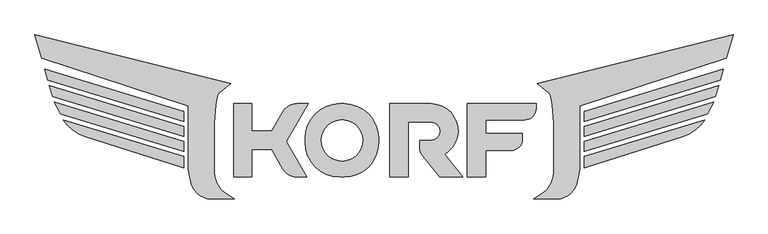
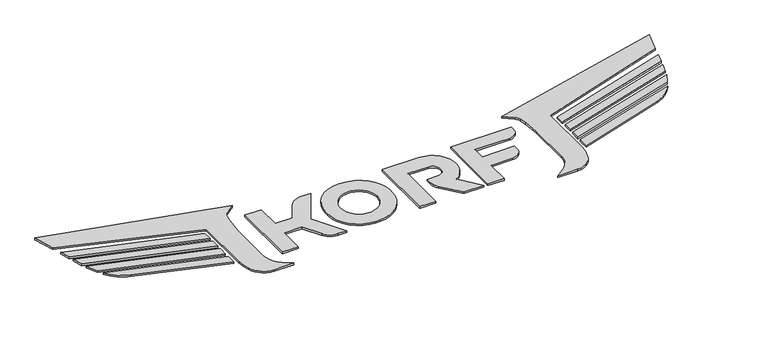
"""IFC4 building model written with IfcOpenShell, lengths in millimetres: proxy geometry, KORF_Логотип : KORF_Логотип."""

from ifc_helpers import new_model, si_unit, point, frame_2d, origin, origin_with_axes, place, context, project, spatial, polyline, circle_curve, trimmed, segment, composite_curve, outline, extrude, source, transform, mapped, element, save


def entourage_f634e647(model_context):
    return source(origin(), model_context, "Body", "SweptSolid", [
        extrude(outline(composite_curve([segment(polyline([(2403.9022071, 16467.9393043), (7407.5903226, 15220.3797396), (7144.561246, 15016.1112324)]), True, "CONTINUOUS"), segment(trimmed(circle_curve(frame_2d((7277.6691605, 14844.7130452)), 217.0139523), [point((7144.561246, 15016.1112324))], [point((7063.9521377, 14882.3971225))], True, "CARTESIAN"), True, "CONTINUOUS"), segment(polyline([(7063.9521377, 14882.3971225), (7028.6900077, 14682.4156454)]), True, "CONTINUOUS"), segment(trimmed(circle_curve(frame_2d((9701.7869253, 14211.0765368)), 2714.3337463), [point((7028.6900077, 14682.4156454))], [point((6987.453179, 14211.0765368))], True, "CARTESIAN"), True, "CONTINUOUS"), segment(polyline([(6987.453179, 14211.0765368), (6987.453179, 12947.0432768)]), True, "CONTINUOUS"), segment(trimmed(circle_curve(frame_2d((7616.5584413, 12947.0432768)), 629.1052623), [point((6987.453179, 12947.0432768))], [point((7244.2080678, 12439.9647519))], True, "CARTESIAN"), True, "CONTINUOUS"), segment(polyline([(7244.2080678, 12439.9647519), (7492.8383582, 12265.8719484), (6907.3621652, 12265.8719484)]), True, "CONTINUOUS"), segment(trimmed(circle_curve(frame_2d((6907.3621652, 12785.4983791)), 519.6264307), [point((6907.3621652, 12265.8719484))], [point((6403.1708602, 12659.789368))], False, "CARTESIAN"), True, "CONTINUOUS"), segment(trimmed(circle_curve(frame_2d((7775.9967689, 13144.9732922)), 1456.0406642), [point((6403.1708602, 12659.789368))], [point((6325.169916, 13021.8641584))], False, "CARTESIAN"), True, "CONTINUOUS"), segment(polyline([(6325.169916, 13021.8641584), (6325.169916, 14651.2673834), (2575.4676487, 15869.619505), (2403.9022071, 16467.9393043)]), True, "CONTINUOUS")], self_intersect=False)), origin_with_axes(), (0.0, 0.0, 1.0), 50.0),
        extrude(outline(polyline([(2734.7680258, 15314.0730693), (2653.8016117, 15596.4365111), (6207.138489, 14510.0724062), (6207.138489, 14252.4628812), (2734.7680258, 15314.0730693)])), origin_with_axes(), (0.0, 0.0, 1.0), 50.0),
        extrude(outline(polyline([(6207.138489, 13866.0485939), (2853.3071979, 14891.41772), (2772.3407838, 15173.7811619), (6207.138489, 14123.6581188), (6207.138489, 13866.0485939)])), origin_with_axes(), (0.0, 0.0, 1.0), 50.0),
        extrude(outline(composite_curve([segment(polyline([(6207.138489, 13479.6343065), (3057.8756095, 14442.4605928)]), True, "CONTINUOUS"), segment(trimmed(circle_curve(frame_2d((4578.1626957, 15406.2677286)), 1800.0547269), [point((3057.8756095, 14442.4605928))], [point((2903.0179527, 14747.4148546))], False, "CARTESIAN"), True, "CONTINUOUS"), segment(polyline([(2903.0179527, 14747.4148546), (6207.138489, 13737.2438314), (6207.138489, 13479.6343065)]), True, "CONTINUOUS")], self_intersect=False)), origin_with_axes(), (0.0, 0.0, 1.0), 50.0),
        extrude(outline(composite_curve([segment(polyline([(6207.138489, 13066.2319318), (3682.1800665, 13862.082173)]), True, "CONTINUOUS"), segment(trimmed(circle_curve(frame_2d((3980.6901623, 14809.1517869)), 993.0000659), [point((3682.1800665, 13862.082173))], [point((3133.9686917, 14290.3918404))], False, "CARTESIAN"), True, "CONTINUOUS"), segment(polyline([(3133.9686917, 14290.3918404), (6207.138489, 13350.829544), (6207.138489, 13066.2319318)]), True, "CONTINUOUS")], self_intersect=False)), origin_with_axes(), (0.0, 0.0, 1.0), 50.0),
        extrude(outline(composite_curve([segment(polyline([(20235.5114025, 16467.9393043), (20063.9459608, 15869.619505), (16314.2436936, 14651.2673834), (16314.2436936, 13021.8641584)]), True, "CONTINUOUS"), segment(trimmed(circle_curve(frame_2d((14863.4168407, 13144.9732922)), 1456.0406642), [point((16314.2436936, 13021.8641584))], [point((16236.2427493, 12659.789368))], False, "CARTESIAN"), True, "CONTINUOUS"), segment(trimmed(circle_curve(frame_2d((15732.0514443, 12785.4983791)), 519.6264307), [point((16236.2427493, 12659.789368))], [point((15732.0514443, 12265.8719484))], False, "CARTESIAN"), True, "CONTINUOUS"), segment(polyline([(15732.0514443, 12265.8719484), (15146.5752514, 12265.8719484), (15395.2055418, 12439.9647519)]), True, "CONTINUOUS"), segment(trimmed(circle_curve(frame_2d((15022.8551682, 12947.0432768)), 629.1052623), [point((15395.2055418, 12439.9647519))], [point((15651.9604305, 12947.0432768))], True, "CARTESIAN"), True, "CONTINUOUS"), segment(polyline([(15651.9604305, 12947.0432768), (15651.9604305, 14211.0765368)]), True, "CONTINUOUS"), segment(trimmed(circle_curve(frame_2d((12937.6266842, 14211.0765368)), 2714.3337463), [point((15651.9604305, 14211.0765368))], [point((15610.7236019, 14682.4156454))], True, "CARTESIAN"), True, "CONTINUOUS"), segment(polyline([(15610.7236019, 14682.4156454), (15575.4614718, 14882.3971225)]), True, "CONTINUOUS"), segment(trimmed(circle_curve(frame_2d((15361.744449, 14844.7130452)), 217.0139523), [point((15575.4614718, 14882.3971225))], [point((15494.8523636, 15016.1112324))], True, "CARTESIAN"), True, "CONTINUOUS"), segment(polyline([(15494.8523636, 15016.1112324), (15231.8232869, 15220.3797396), (20235.5114025, 16467.9393043)]), True, "CONTINUOUS")], self_intersect=False)), origin_with_axes(), (0.0, 0.0, 1.0), 50.0),
        extrude(outline(polyline([(19904.6455838, 15314.0730693), (16432.2751205, 14252.4628812), (16432.2751205, 14510.0724062), (19985.6119978, 15596.4365111), (19904.6455838, 15314.0730693)])), origin_with_axes(), (0.0, 0.0, 1.0), 50.0),
        extrude(outline(polyline([(16432.2751205, 13866.0485939), (16432.2751205, 14123.6581188), (19867.0728257, 15173.7811619), (19786.1064117, 14891.41772), (16432.2751205, 13866.0485939)])), origin_with_axes(), (0.0, 0.0, 1.0), 50.0),
        extrude(outline(composite_curve([segment(polyline([(16432.2751205, 13479.6343065), (16432.2751205, 13737.2438314), (19736.3956569, 14747.4148546)]), True, "CONTINUOUS"), segment(trimmed(circle_curve(frame_2d((18061.2509138, 15406.2677286)), 1800.0547269), [point((19736.3956569, 14747.4148546))], [point((19581.5380001, 14442.4605928))], False, "CARTESIAN"), True, "CONTINUOUS"), segment(polyline([(19581.5380001, 14442.4605928), (16432.2751205, 13479.6343065)]), True, "CONTINUOUS")], self_intersect=False)), origin_with_axes(), (0.0, 0.0, 1.0), 50.0),
        extrude(outline(composite_curve([segment(polyline([(16432.2751205, 13066.2319318), (16432.2751205, 13350.829544), (19505.4449178, 14290.3918404)]), True, "CONTINUOUS"), segment(trimmed(circle_curve(frame_2d((18658.7234472, 14809.1517869)), 993.0000659), [point((19505.4449178, 14290.3918404))], [point((18957.2335431, 13862.082173))], False, "CARTESIAN"), True, "CONTINUOUS"), segment(polyline([(18957.2335431, 13862.082173), (16432.2751205, 13066.2319318)]), True, "CONTINUOUS")], self_intersect=False)), origin_with_axes(), (0.0, 0.0, 1.0), 50.0),
        extrude(outline(composite_curve([segment(polyline([(7477.7956625, 12830.0838267), (7477.7956625, 14703.6076442), (7946.1766169, 14703.6076442), (7946.1766169, 14001.0362126), (8451.9875509, 14001.0362126), (8739.3086628, 14498.6909767)]), True, "CONTINUOUS"), segment(trimmed(circle_curve(frame_2d((9094.2347423, 14293.7743091)), 409.8333351), [point((8739.3086628, 14498.6909767))], [point((9094.2347423, 14703.6076442))], False, "CARTESIAN"), True, "CONTINUOUS"), segment(polyline([(9094.2347423, 14703.6076442), (9384.5459297, 14703.6076442), (8824.9911997, 13734.4304222), (9347.1159501, 12830.0838267), (9094.2347423, 12830.0838267)]), True, "CONTINUOUS"), segment(trimmed(circle_curve(frame_2d((9094.2347423, 13239.9171617)), 409.8333351), [point((9094.2347423, 12830.0838267))], [point((8739.3086628, 13035.0004942))], False, "CARTESIAN"), True, "CONTINUOUS"), segment(polyline([(8739.3086628, 13035.0004942), (8451.9875509, 13532.6552582), (7946.1766169, 13532.6552582), (7946.1766169, 12830.0838267), (7477.7956625, 12830.0838267)]), True, "CONTINUOUS")], self_intersect=False)), origin_with_axes(), (0.0, 0.0, 1.0), 50.0),
        extrude(outline(composite_curve([segment(polyline([(9308.0090589, 13708.2981161), (9308.0090589, 13825.3933547)]), True, "CONTINUOUS"), segment(trimmed(circle_curve(frame_2d((10186.2233484, 13825.3933547)), 878.2142895), [point((9308.0090589, 13825.3933547))], [point((10186.2233484, 14703.6076442))], False, "CARTESIAN"), True, "CONTINUOUS"), segment(polyline([(10186.2233484, 14703.6076442), (10303.318587, 14703.6076442)]), True, "CONTINUOUS"), segment(trimmed(circle_curve(frame_2d((10303.318587, 13825.3933547)), 878.2142895), [point((10303.318587, 14703.6076442))], [point((11181.5328764, 13825.3933547))], False, "CARTESIAN"), True, "CONTINUOUS"), segment(polyline([(11181.5328764, 13825.3933547), (11181.5328764, 13708.2981161)]), True, "CONTINUOUS"), segment(trimmed(circle_curve(frame_2d((10303.318587, 13708.2981161)), 878.2142895), [point((11181.5328764, 13708.2981161))], [point((10303.318587, 12830.0838267))], False, "CARTESIAN"), True, "CONTINUOUS"), segment(polyline([(10303.318587, 12830.0838267), (10186.2233484, 12830.0838267)]), True, "CONTINUOUS"), segment(trimmed(circle_curve(frame_2d((10186.2233484, 13708.2981161)), 878.2142895), [point((10186.2233484, 12830.0838267))], [point((9308.0090589, 13708.2981161))], False, "CARTESIAN"), True, "CONTINUOUS")], self_intersect=False), holes=[composite_curve([segment(trimmed(circle_curve(frame_2d((10244.7709677, 13766.8457354)), 526.9285737), [point((9717.842394, 13766.8457354))], [point((10771.6995414, 13766.8457354))], True, "CARTESIAN"), True, "CONTINUOUS"), segment(trimmed(circle_curve(frame_2d((10244.7709677, 13766.8457354)), 526.9285737), [point((10771.6995414, 13766.8457354))], [point((9717.842394, 13766.8457354))], True, "CARTESIAN"), True, "CONTINUOUS")], self_intersect=False)]), origin_with_axes(), (0.0, 0.0, 1.0), 50.0),
        extrude(outline(composite_curve([segment(polyline([(11466.4764647, 14703.6076442), (12521.1933604, 14703.6076442)]), True, "CONTINUOUS"), segment(trimmed(circle_curve(frame_2d((12521.1933604, 14011.5166284)), 692.0910158), [point((12521.1933604, 14703.6076442))], [point((12865.2375999, 13410.9972404))], False, "CARTESIAN"), True, "CONTINUOUS"), segment(polyline([(12865.2375999, 13410.9972404), (13328.5552185, 12830.0838267), (12743.0790255, 12830.0838267), (12313.2854401, 13368.9643892)]), True, "CONTINUOUS"), segment(trimmed(circle_curve(frame_2d((12618.7602554, 13612.6011526)), 390.7348656), [point((12313.2854401, 13368.9643892))], [point((12228.0253897, 13612.6011526))], False, "CARTESIAN"), True, "CONTINUOUS"), segment(polyline([(12228.0253897, 13612.6011526), (12228.0253897, 13766.8457354), (12521.1933604, 13766.8457354)]), True, "CONTINUOUS"), segment(trimmed(circle_curve(frame_2d((12521.1933604, 14001.0362126)), 234.1904772), [point((12521.1933604, 13766.8457354))], [point((12521.1933604, 14235.2266898))], True, "CARTESIAN"), True, "CONTINUOUS"), segment(polyline([(12521.1933604, 14235.2266898), (11934.8574191, 14235.2266898), (11934.8574191, 12830.0838267), (11466.4764647, 12830.0838267), (11466.4764647, 14703.6076442)]), True, "CONTINUOUS")], self_intersect=False)), origin_with_axes(), (0.0, 0.0, 1.0), 50.0),
        extrude(outline(composite_curve([segment(polyline([(13449.1000826, 14703.6076442), (15205.5286616, 14703.6076442), (15205.5286616, 14586.5124056)]), True, "CONTINUOUS"), segment(trimmed(circle_curve(frame_2d((14912.7905651, 14586.5124056)), 292.7380965), [point((15205.5286616, 14586.5124056))], [point((14912.7905651, 14293.7743091))], False, "CARTESIAN"), True, "CONTINUOUS"), segment(polyline([(14912.7905651, 14293.7743091), (13917.481037, 14293.7743091), (13917.481037, 13938.3082444), (14856.4239788, 13938.3082444), (14856.4239788, 13800.860051)]), True, "CONTINUOUS"), segment(trimmed(circle_curve(frame_2d((14563.6858823, 13800.860051)), 292.7380965), [point((14856.4239788, 13800.860051))], [point((14563.6858823, 13508.1219545))], False, "CARTESIAN"), True, "CONTINUOUS"), segment(polyline([(14563.6858823, 13508.1219545), (13917.481037, 13508.1219545), (13917.481037, 12830.0838267), (13449.1000826, 12830.0838267), (13449.1000826, 14703.6076442)]), True, "CONTINUOUS")], self_intersect=False)), origin_with_axes(), (0.0, 0.0, 1.0), 50.0),
    ])


if __name__ == "__main__":
    model = new_model("IFC4")
    model_context = context("Model", 3, world=origin())
    ifc_project = project(units=[si_unit("LENGTHUNIT", "METRE", prefix="MILLI")], contexts=[model_context])
    site = spatial("IfcSite", under=ifc_project)
    building = spatial("IfcBuilding", under=site)
    placement = place(None, origin())
    entourage_shape = entourage_f634e647(model_context)
    element("IfcBuildingElementProxy", 1, Name="KORF_Логотип : KORF_Логотип", ObjectType="KORF_Логотип : KORF_Логотип", at=placement, inside=building, context=model_context, shape_type="MappedRepresentation", body=[
        mapped(entourage_shape, transform((0.0, 0.0, 0.0), x_axis=(1.0, 0.0, 0.0), y_axis=(0.0, 1.0, 0.0), z_axis=(0.0, 0.0, 1.0))),
    ])
    save(model, "model.ifc")
